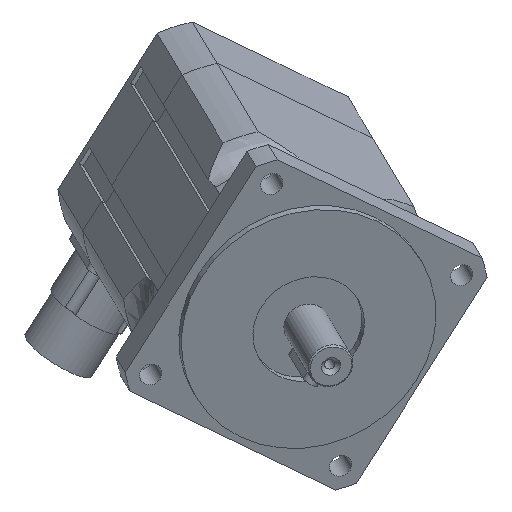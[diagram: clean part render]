
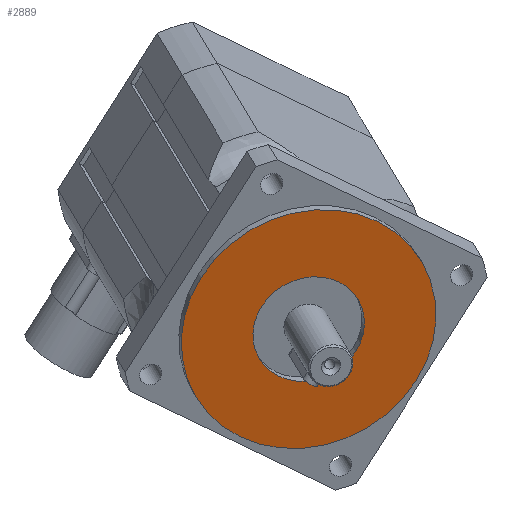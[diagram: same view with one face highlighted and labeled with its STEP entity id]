
A CAD part, isometric view. The second image highlights one B-rep face of the part: STEP entity #2889.
In plain terms, the highlighted planar face has unit normal (-0.497, -0.853, 0.161) as drawn and (0, 0, 1) by its records, which use the part's own axes.
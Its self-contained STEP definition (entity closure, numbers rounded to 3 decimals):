
#212=PLANE('',#3072);
#297=CIRCLE('',#3067,17.5);
#298=CIRCLE('',#3070,40.);
#958=VERTEX_POINT('',#4910);
#959=VERTEX_POINT('',#4914);
#1279=EDGE_CURVE('',#958,#958,#297,.T.);
#1280=EDGE_CURVE('',#959,#959,#298,.T.);
#1743=ORIENTED_EDGE('',*,*,#1280,.F.);
#1744=ORIENTED_EDGE('',*,*,#1279,.T.);
#2442=EDGE_LOOP('',(#1743));
#2443=EDGE_LOOP('',(#1744));
#2672=FACE_BOUND('',#2442,.T.);
#2673=FACE_BOUND('',#2443,.T.);
#2889=ADVANCED_FACE('',(#2672,#2673),#212,.F.);
#3067=AXIS2_PLACEMENT_3D('',#4909,#3483,#3484);
#3070=AXIS2_PLACEMENT_3D('',#4913,#3488,#3489);
#3072=AXIS2_PLACEMENT_3D('',#4917,#3492,$);
#3483=DIRECTION('',(0.,0.,-1.));
#3484=DIRECTION('',(-17.5,0.,0.));
#3488=DIRECTION('',(0.,0.,-1.));
#3489=DIRECTION('',(-40.,0.,0.));
#3492=DIRECTION('',(0.,0.,-1.));
#4909=CARTESIAN_POINT('',(0.,0.,177.));
#4910=CARTESIAN_POINT('',(17.5,0.,177.));
#4913=CARTESIAN_POINT('',(0.,0.,177.));
#4914=CARTESIAN_POINT('',(40.,0.,177.));
#4917=CARTESIAN_POINT('',(0.,0.,177.));
